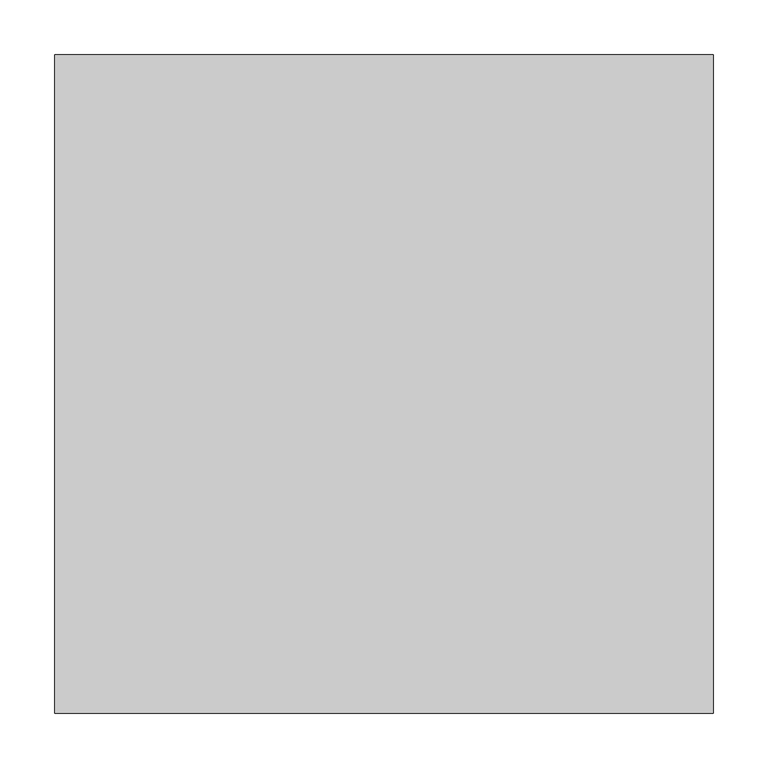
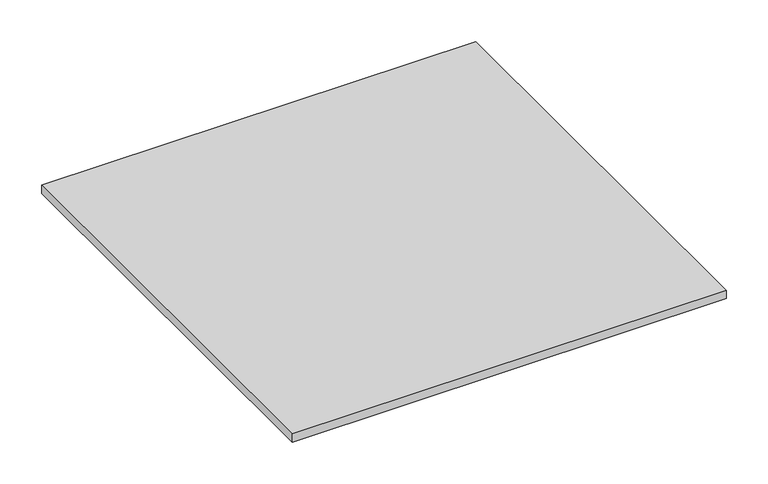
"""IFC4 building model written with IfcOpenShell, lengths in millimetres: proxy geometry, MODELO3D_PLAFON_HYDRA 1.3dm."""

from ifc_helpers import new_model, si_unit, origin, origin_with_axes, place, context, project, spatial, polyline, outline, extrude, source, transform, mapped, element, save


def generic_models_257b50fe(model_context):
    return source(origin(), model_context, "Body", "SweptSolid", [
        extrude(outline(polyline([(-4003.3524269, 336.632562), (-4003.3524269, 936.632562), (-3403.3524269, 936.632562), (-3403.3524269, 336.632562), (-4003.3524269, 336.632562)])), origin_with_axes(), (0.0, 0.0, 1.0), 12.0),
    ])


if __name__ == "__main__":
    model = new_model("IFC4")
    model_context = context("Model", 3, world=origin())
    ifc_project = project(units=[si_unit("LENGTHUNIT", "METRE", prefix="MILLI")], contexts=[model_context])
    site = spatial("IfcSite", under=ifc_project)
    building = spatial("IfcBuilding", under=site)
    placement = place(None, origin())
    generic_models_shape = generic_models_257b50fe(model_context)
    element("IfcBuildingElementProxy", 1, Name="MODELO3D_PLAFON_HYDRA 1.3dm", ObjectType="MODELO3D_PLAFON_HYDRA 1.3dm", at=placement, inside=building, context=model_context, shape_type="MappedRepresentation", body=[
        mapped(generic_models_shape, transform((0.0, 0.0, 0.0), x_axis=(1.0, 0.0, 0.0), y_axis=(0.0, 1.0, 0.0), z_axis=(0.0, 0.0, 1.0))),
    ])
    save(model, "model.ifc")
